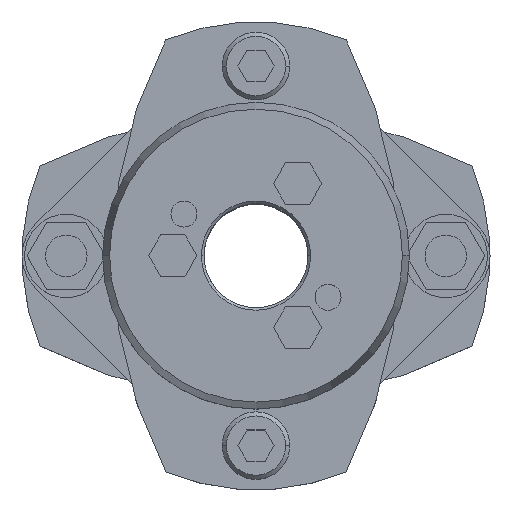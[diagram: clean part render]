
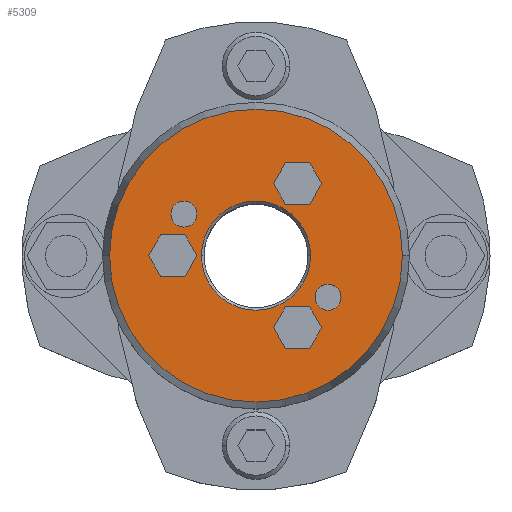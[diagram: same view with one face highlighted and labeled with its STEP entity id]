
A CAD part, top view. The second image highlights one B-rep face of the part: STEP entity #5309.
In plain terms, the highlighted planar face has unit normal (0, 0, 1).
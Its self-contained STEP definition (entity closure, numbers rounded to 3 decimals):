
#857=CARTESIAN_POINT('',(-10.5,0.,39.25));
#858=VERTEX_POINT('',#857);
#874=CARTESIAN_POINT('',(10.5,0.,39.25));
#875=VERTEX_POINT('',#874);
#882=CARTESIAN_POINT('',(0.,0.,39.25));
#883=DIRECTION('',(0.0,0.0,1.0));
#884=DIRECTION('',(-1.0,0.0,0.0));
#885=AXIS2_PLACEMENT_3D('',#882,#883,#884);
#886=CIRCLE('',#885,10.5);
#887=EDGE_CURVE('',#875,#858,#886,.T.);
#1045=CARTESIAN_POINT('',(28.16,0.,39.25));
#1046=VERTEX_POINT('',#1045);
#1053=CARTESIAN_POINT('',(-28.16,0.,39.25));
#1054=VERTEX_POINT('',#1053);
#1055=CARTESIAN_POINT('',(0.,0.,39.25));
#1056=DIRECTION('',(0.0,0.0,-1.0));
#1057=DIRECTION('',(1.0,0.0,0.0));
#1058=AXIS2_PLACEMENT_3D('',#1055,#1056,#1057);
#1059=CIRCLE('',#1058,28.16);
#1060=EDGE_CURVE('',#1046,#1054,#1059,.T.);
#1303=CARTESIAN_POINT('',(-16.356,8.,39.25));
#1304=VERTEX_POINT('',#1303);
#1320=CARTESIAN_POINT('',(-11.356,8.,39.25));
#1321=VERTEX_POINT('',#1320);
#1328=CARTESIAN_POINT('',(-13.856,8.,39.25));
#1329=DIRECTION('',(0.0,0.0,-1.0));
#1330=DIRECTION('',(-1.0,0.0,0.0));
#1331=AXIS2_PLACEMENT_3D('',#1328,#1329,#1330);
#1332=CIRCLE('',#1331,2.5);
#1333=EDGE_CURVE('',#1304,#1321,#1332,.T.);
#1345=CARTESIAN_POINT('',(11.356,-8.,39.25));
#1346=VERTEX_POINT('',#1345);
#1362=CARTESIAN_POINT('',(16.356,-8.,39.25));
#1363=VERTEX_POINT('',#1362);
#1370=CARTESIAN_POINT('',(13.856,-8.,39.25));
#1371=DIRECTION('',(0.0,0.0,-1.0));
#1372=DIRECTION('',(-1.0,0.0,0.0));
#1373=AXIS2_PLACEMENT_3D('',#1370,#1371,#1372);
#1374=CIRCLE('',#1373,2.5);
#1375=EDGE_CURVE('',#1346,#1363,#1374,.T.);
#3825=CARTESIAN_POINT('',(3.381,13.856,39.25));
#3826=VERTEX_POINT('',#3825);
#3833=CARTESIAN_POINT('',(5.691,9.856,39.25));
#3834=VERTEX_POINT('',#3833);
#3835=CARTESIAN_POINT('',(5.691,9.856,39.25));
#3836=DIRECTION('',(-0.5,0.866,0.0));
#3837=VECTOR('',#3836,4.619);
#3838=LINE('',#3835,#3837);
#3839=EDGE_CURVE('',#3834,#3826,#3838,.T.);
#3863=CARTESIAN_POINT('',(5.691,17.856,39.25));
#3864=VERTEX_POINT('',#3863);
#3871=CARTESIAN_POINT('',(3.381,13.856,39.25));
#3872=DIRECTION('',(0.5,0.866,0.0));
#3873=VECTOR('',#3872,4.619);
#3874=LINE('',#3871,#3873);
#3875=EDGE_CURVE('',#3826,#3864,#3874,.T.);
#3894=CARTESIAN_POINT('',(10.309,17.856,39.25));
#3895=VERTEX_POINT('',#3894);
#3902=CARTESIAN_POINT('',(5.691,17.856,39.25));
#3903=DIRECTION('',(1.0,0.0,0.0));
#3904=VECTOR('',#3903,4.619);
#3905=LINE('',#3902,#3904);
#3906=EDGE_CURVE('',#3864,#3895,#3905,.T.);
#3925=CARTESIAN_POINT('',(12.619,13.856,39.25));
#3926=VERTEX_POINT('',#3925);
#3933=CARTESIAN_POINT('',(10.309,17.856,39.25));
#3934=DIRECTION('',(0.5,-0.866,0.0));
#3935=VECTOR('',#3934,4.619);
#3936=LINE('',#3933,#3935);
#3937=EDGE_CURVE('',#3895,#3926,#3936,.T.);
#3956=CARTESIAN_POINT('',(10.309,9.856,39.25));
#3957=VERTEX_POINT('',#3956);
#3964=CARTESIAN_POINT('',(12.619,13.856,39.25));
#3965=DIRECTION('',(-0.5,-0.866,0.0));
#3966=VECTOR('',#3965,4.619);
#3967=LINE('',#3964,#3966);
#3968=EDGE_CURVE('',#3926,#3957,#3967,.T.);
#3986=CARTESIAN_POINT('',(10.309,9.856,39.25));
#3987=DIRECTION('',(-1.0,0.0,0.0));
#3988=VECTOR('',#3987,4.619);
#3989=LINE('',#3986,#3988);
#3990=EDGE_CURVE('',#3957,#3834,#3989,.T.);
#4025=CARTESIAN_POINT('',(-20.619,0.,39.25));
#4026=VERTEX_POINT('',#4025);
#4033=CARTESIAN_POINT('',(-18.309,-4.,39.25));
#4034=VERTEX_POINT('',#4033);
#4035=CARTESIAN_POINT('',(-18.309,-4.,39.25));
#4036=DIRECTION('',(-0.5,0.866,0.0));
#4037=VECTOR('',#4036,4.619);
#4038=LINE('',#4035,#4037);
#4039=EDGE_CURVE('',#4034,#4026,#4038,.T.);
#4063=CARTESIAN_POINT('',(-18.309,4.,39.25));
#4064=VERTEX_POINT('',#4063);
#4071=CARTESIAN_POINT('',(-20.619,0.,39.25));
#4072=DIRECTION('',(0.5,0.866,0.0));
#4073=VECTOR('',#4072,4.619);
#4074=LINE('',#4071,#4073);
#4075=EDGE_CURVE('',#4026,#4064,#4074,.T.);
#4094=CARTESIAN_POINT('',(-13.691,4.,39.25));
#4095=VERTEX_POINT('',#4094);
#4102=CARTESIAN_POINT('',(-18.309,4.,39.25));
#4103=DIRECTION('',(1.0,0.0,0.0));
#4104=VECTOR('',#4103,4.619);
#4105=LINE('',#4102,#4104);
#4106=EDGE_CURVE('',#4064,#4095,#4105,.T.);
#4125=CARTESIAN_POINT('',(-11.381,0.,39.25));
#4126=VERTEX_POINT('',#4125);
#4133=CARTESIAN_POINT('',(-13.691,4.,39.25));
#4134=DIRECTION('',(0.5,-0.866,0.0));
#4135=VECTOR('',#4134,4.619);
#4136=LINE('',#4133,#4135);
#4137=EDGE_CURVE('',#4095,#4126,#4136,.T.);
#4156=CARTESIAN_POINT('',(-13.691,-4.,39.25));
#4157=VERTEX_POINT('',#4156);
#4164=CARTESIAN_POINT('',(-11.381,0.,39.25));
#4165=DIRECTION('',(-0.5,-0.866,0.0));
#4166=VECTOR('',#4165,4.619);
#4167=LINE('',#4164,#4166);
#4168=EDGE_CURVE('',#4126,#4157,#4167,.T.);
#4186=CARTESIAN_POINT('',(-13.691,-4.,39.25));
#4187=DIRECTION('',(-1.0,0.0,0.0));
#4188=VECTOR('',#4187,4.619);
#4189=LINE('',#4186,#4188);
#4190=EDGE_CURVE('',#4157,#4034,#4189,.T.);
#4225=CARTESIAN_POINT('',(3.381,-13.856,39.25));
#4226=VERTEX_POINT('',#4225);
#4233=CARTESIAN_POINT('',(5.691,-17.856,39.25));
#4234=VERTEX_POINT('',#4233);
#4235=CARTESIAN_POINT('',(5.691,-17.856,39.25));
#4236=DIRECTION('',(-0.5,0.866,0.0));
#4237=VECTOR('',#4236,4.619);
#4238=LINE('',#4235,#4237);
#4239=EDGE_CURVE('',#4234,#4226,#4238,.T.);
#4263=CARTESIAN_POINT('',(5.691,-9.856,39.25));
#4264=VERTEX_POINT('',#4263);
#4271=CARTESIAN_POINT('',(3.381,-13.856,39.25));
#4272=DIRECTION('',(0.5,0.866,0.0));
#4273=VECTOR('',#4272,4.619);
#4274=LINE('',#4271,#4273);
#4275=EDGE_CURVE('',#4226,#4264,#4274,.T.);
#4294=CARTESIAN_POINT('',(10.309,-9.856,39.25));
#4295=VERTEX_POINT('',#4294);
#4302=CARTESIAN_POINT('',(5.691,-9.856,39.25));
#4303=DIRECTION('',(1.0,0.0,0.0));
#4304=VECTOR('',#4303,4.619);
#4305=LINE('',#4302,#4304);
#4306=EDGE_CURVE('',#4264,#4295,#4305,.T.);
#4325=CARTESIAN_POINT('',(12.619,-13.856,39.25));
#4326=VERTEX_POINT('',#4325);
#4333=CARTESIAN_POINT('',(10.309,-9.856,39.25));
#4334=DIRECTION('',(0.5,-0.866,0.0));
#4335=VECTOR('',#4334,4.619);
#4336=LINE('',#4333,#4335);
#4337=EDGE_CURVE('',#4295,#4326,#4336,.T.);
#4356=CARTESIAN_POINT('',(10.309,-17.856,39.25));
#4357=VERTEX_POINT('',#4356);
#4364=CARTESIAN_POINT('',(12.619,-13.856,39.25));
#4365=DIRECTION('',(-0.5,-0.866,0.0));
#4366=VECTOR('',#4365,4.619);
#4367=LINE('',#4364,#4366);
#4368=EDGE_CURVE('',#4326,#4357,#4367,.T.);
#4386=CARTESIAN_POINT('',(10.309,-17.856,39.25));
#4387=DIRECTION('',(-1.0,0.0,0.0));
#4388=VECTOR('',#4387,4.619);
#4389=LINE('',#4386,#4388);
#4390=EDGE_CURVE('',#4357,#4234,#4389,.T.);
#4416=CARTESIAN_POINT('',(13.856,-8.,39.25));
#4417=DIRECTION('',(0.0,0.0,-1.0));
#4418=DIRECTION('',(-1.0,0.0,0.0));
#4419=AXIS2_PLACEMENT_3D('',#4416,#4417,#4418);
#4420=CIRCLE('',#4419,2.5);
#4421=EDGE_CURVE('',#1363,#1346,#4420,.T.);
#4450=CARTESIAN_POINT('',(-13.856,8.,39.25));
#4451=DIRECTION('',(0.0,0.0,-1.0));
#4452=DIRECTION('',(-1.0,0.0,0.0));
#4453=AXIS2_PLACEMENT_3D('',#4450,#4451,#4452);
#4454=CIRCLE('',#4453,2.5);
#4455=EDGE_CURVE('',#1321,#1304,#4454,.T.);
#5248=CARTESIAN_POINT('',(0.,0.,39.25));
#5249=DIRECTION('',(0.0,0.0,-1.0));
#5250=DIRECTION('',(1.0,0.0,0.0));
#5251=AXIS2_PLACEMENT_3D('',#5248,#5249,#5250);
#5252=CIRCLE('',#5251,28.16);
#5253=EDGE_CURVE('',#1054,#1046,#5252,.T.);
#5258=CARTESIAN_POINT('',(-2.682,0.,39.25));
#5259=DIRECTION('',(0.0,0.0,1.0));
#5260=DIRECTION('',(-1.0,0.0,0.0));
#5261=AXIS2_PLACEMENT_3D('',#5258,#5259,#5260);
#5262=PLANE('',#5261);
#5263=ORIENTED_EDGE('',*,*,#5253,.F.);
#5264=ORIENTED_EDGE('',*,*,#1060,.F.);
#5265=EDGE_LOOP('',(#5263,#5264));
#5266=FACE_OUTER_BOUND('',#5265,.T.);
#5267=ORIENTED_EDGE('',*,*,#3839,.T.);
#5268=ORIENTED_EDGE('',*,*,#3875,.T.);
#5269=ORIENTED_EDGE('',*,*,#3906,.T.);
#5270=ORIENTED_EDGE('',*,*,#3937,.T.);
#5271=ORIENTED_EDGE('',*,*,#3968,.T.);
#5272=ORIENTED_EDGE('',*,*,#3990,.T.);
#5273=EDGE_LOOP('',(#5267,#5268,#5269,#5270,#5271,#5272));
#5274=FACE_BOUND('',#5273,.T.);
#5275=ORIENTED_EDGE('',*,*,#4039,.T.);
#5276=ORIENTED_EDGE('',*,*,#4075,.T.);
#5277=ORIENTED_EDGE('',*,*,#4106,.T.);
#5278=ORIENTED_EDGE('',*,*,#4137,.T.);
#5279=ORIENTED_EDGE('',*,*,#4168,.T.);
#5280=ORIENTED_EDGE('',*,*,#4190,.T.);
#5281=EDGE_LOOP('',(#5275,#5276,#5277,#5278,#5279,#5280));
#5282=FACE_BOUND('',#5281,.T.);
#5283=ORIENTED_EDGE('',*,*,#4239,.T.);
#5284=ORIENTED_EDGE('',*,*,#4275,.T.);
#5285=ORIENTED_EDGE('',*,*,#4306,.T.);
#5286=ORIENTED_EDGE('',*,*,#4337,.T.);
#5287=ORIENTED_EDGE('',*,*,#4368,.T.);
#5288=ORIENTED_EDGE('',*,*,#4390,.T.);
#5289=EDGE_LOOP('',(#5283,#5284,#5285,#5286,#5287,#5288));
#5290=FACE_BOUND('',#5289,.T.);
#5291=ORIENTED_EDGE('',*,*,#1375,.T.);
#5292=ORIENTED_EDGE('',*,*,#4421,.T.);
#5293=EDGE_LOOP('',(#5291,#5292));
#5294=FACE_BOUND('',#5293,.T.);
#5295=ORIENTED_EDGE('',*,*,#1333,.T.);
#5296=ORIENTED_EDGE('',*,*,#4455,.T.);
#5297=EDGE_LOOP('',(#5295,#5296));
#5298=FACE_BOUND('',#5297,.T.);
#5299=ORIENTED_EDGE('',*,*,#887,.F.);
#5300=CARTESIAN_POINT('',(0.,0.,39.25));
#5301=DIRECTION('',(0.0,0.0,1.0));
#5302=DIRECTION('',(-1.0,0.0,0.0));
#5303=AXIS2_PLACEMENT_3D('',#5300,#5301,#5302);
#5304=CIRCLE('',#5303,10.5);
#5305=EDGE_CURVE('',#858,#875,#5304,.T.);
#5306=ORIENTED_EDGE('',*,*,#5305,.F.);
#5307=EDGE_LOOP('',(#5299,#5306));
#5308=FACE_BOUND('',#5307,.T.);
#5309=ADVANCED_FACE('',(#5266,#5274,#5282,#5290,#5294,#5298,#5308),#5262,.T.);
